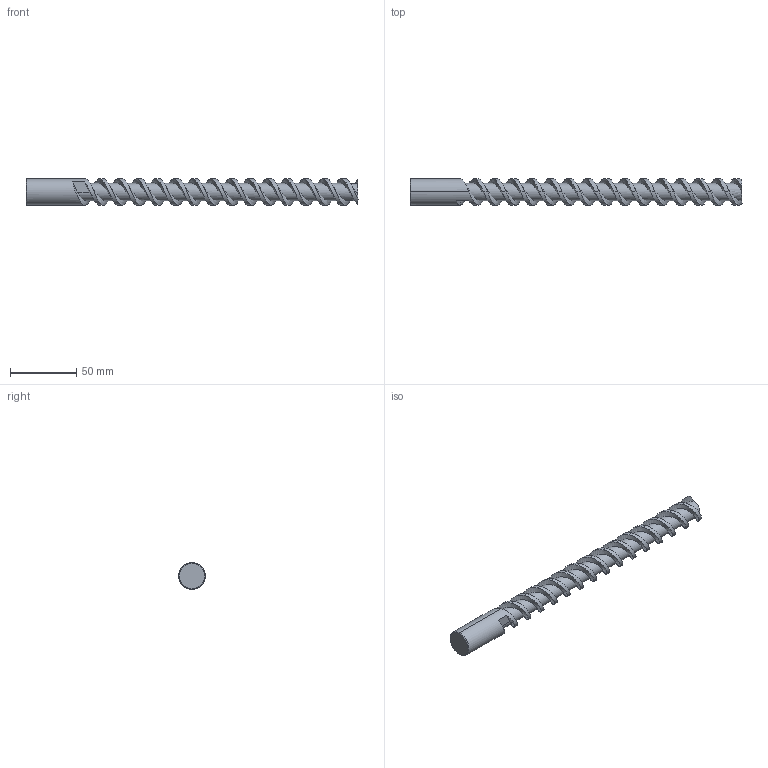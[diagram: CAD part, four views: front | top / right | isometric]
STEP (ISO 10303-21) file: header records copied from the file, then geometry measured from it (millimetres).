
FILE_DESCRIPTION (( 'STEP AP214' ), '1' );
FILE_NAME ('E2122_20_250.STEP', '2013-04-10T07:21:06', ( '' ), ( '' ), 'SwSTEP 2.0', 'SolidWorks 2013', '' );
FILE_SCHEMA (( 'AUTOMOTIVE_DESIGN' ));
Length unit declared in the file: millimetre
Products named in the file (2): Schnitt-Linear austragen2; E2122_20_250
Assembly tree (1 placements, depth 2):
  E2122_20_250
    Schnitt-Linear austragen2
Bounding box: 250 x 20 x 20 mm (x, y, z)
Volume: 50982 mm3; surface area: 17796.6 mm2
Topology: 1 solids, 1 shells, 46 faces, 126 edges, 82 vertices
Faces by surface type: cylinder 30, plane 8, bspline 6, cone 2
Entity records: 9695 total; most frequent: CARTESIAN_POINT 8199, ORIENTED_EDGE 252, DIRECTION 144, EDGE_CURVE 126, VERTEX_POINT 82, UNCERTAINTY_MEASURE_WITH_UNIT 50, AXIS2_PLACEMENT_3D 50, SURFACE_STYLE_FILL_AREA 48
